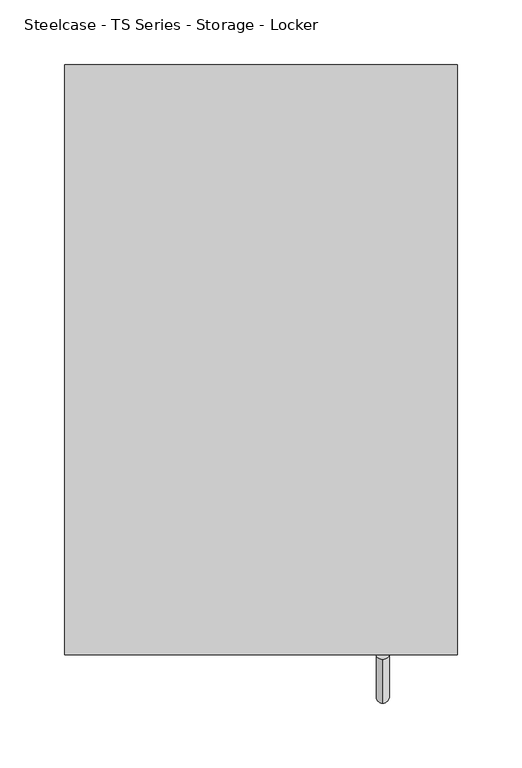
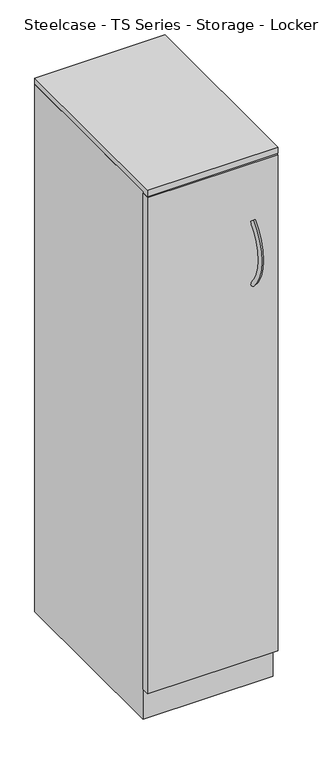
"""IFC4 building model written with IfcOpenShell, lengths in millimetres: furniture geometry, Steelcase - TS Series - Storage - Locker : 18D x 12W x 52H."""

from ifc_helpers import new_model, si_unit, point, frame, origin, place, context, project, spatial, polyline, circle_curve, ellipse_curve, trimmed, outline, extrude, source, transform, mapped, element, save
from ifc_brep_helpers import plane_surface, revolved_surface, advanced_brep


def steelcase_ts_series_storage_locker_4df35ce1(model_context):
    return source(origin(), model_context, "Body", "SolidModel", [
        extrude(outline(polyline([(957.3594429, -1262.4261191), (957.3594429, -1281.555491), (652.5594429, -1281.555491), (652.5594429, -1262.4261191), (957.3594429, -1262.4261191)])), frame((0.0, 0.0, 73.6983116), z_axis=(0.0, 0.0, 1.0), x_axis=(1.0, 0.0, 0.0)), (0.0, 0.0, 1.0), 1226.4638977),
        extrude(outline(polyline([(957.3594429, -824.355491), (957.3594429, -1262.4261191), (652.5594429, -1262.4261191), (652.5594429, -824.355491), (957.3594429, -824.355491)])), frame((0.0, 0.0, -0.4698682), z_axis=(0.0, 0.0, 1.0), x_axis=(1.0, 0.0, 0.0)), (0.0, 0.0, 1.0), 1303.8074651),
        advanced_brep(
        [(899.4155717, -1277.9900113, 1005.0621476), (899.4155717, -1285.1209708, 997.825089), (899.4155717, -1277.9900113, 1153.3956247), (899.4155717, -1285.1209708, 1160.6326834)],
        [
            (0, 1, circle_curve(frame((899.4155717, -1281.555491, 1001.4436183), z_axis=(0.0, 0.7123089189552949, -0.7018660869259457), x_axis=(0.0, -0.7018660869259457, -0.7123089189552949)), 5.08)),
            (1, 0, circle_curve(frame((899.4155717, -1281.555491, 1001.4436183), z_axis=(0.0, 0.7123089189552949, -0.7018660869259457), x_axis=(0.0, -0.7018660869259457, -0.7123089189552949)), 5.08)),
            (2, 3, circle_curve(frame((899.4155717, -1281.555491, 1157.0141541), z_axis=(0.0, 0.7123089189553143, 0.7018660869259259), x_axis=(0.0, -0.7018660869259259, 0.7123089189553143)), 5.08)),
            (3, 2, circle_curve(frame((899.4155717, -1281.555491, 1157.0141541), z_axis=(0.0, 0.7123089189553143, 0.7018660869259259), x_axis=(0.0, -0.7018660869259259, 0.7123089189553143)), 5.08)),
            (3, 1, circle_curve(frame((899.4155717, -1204.910597, 1079.2288862), z_axis=(1.0, 0.0, 0.0), x_axis=(0.0, -0.7018660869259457, -0.7123089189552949)), 114.2815919)),
            (0, 2, circle_curve(frame((899.4155717, -1204.910597, 1079.2288862), z_axis=(-1.0, 0.0, 0.0), x_axis=(0.0, -0.7018660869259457, -0.7123089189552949)), 104.1215919)),
        ],
        [
            plane_surface(frame((899.4155717, -1281.555491, 1001.4436183), z_axis=(0.0, 0.7123089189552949, -0.7018660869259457), x_axis=(1.0, 0.0, 0.0))),
            plane_surface(frame((899.4155717, -1281.555491, 1157.0141541), z_axis=(0.0, 0.7123089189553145, 0.701866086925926), x_axis=(1.0, 0.0, 0.0))),
            revolved_surface(trimmed(ellipse_curve(frame((899.4155717, -1281.555491, 1001.4436183), z_axis=(0.0, 0.7123089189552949, -0.7018660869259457), x_axis=(0.0, -0.7018660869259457, -0.7123089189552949)), 5.08, 5.08), [point((899.4155717, -1277.9900113, 1005.0621476))], [point((899.4155717, -1285.1209708, 997.825089))], True, "CARTESIAN"), (899.4155717, -1204.910597, 1079.2288862), (-1.0, 0.0, 0.0)),
            revolved_surface(trimmed(ellipse_curve(frame((899.4155717, -1281.555491, 1001.4436183), z_axis=(0.0, 0.7123089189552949, -0.7018660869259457), x_axis=(0.0, -0.7018660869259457, -0.7123089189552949)), 5.08, 5.08), [point((899.4155717, -1285.1209708, 997.825089))], [point((899.4155717, -1277.9900113, 1005.0621476))], True, "CARTESIAN"), (899.4155717, -1204.910597, 1079.2288862), (-1.0, 0.0, 0.0)),
        ],
        [
            (0, [[1, 2]]),
            (1, [[3, 4]]),
            (2, [[5, -1, 6, -4]]),
            (3, [[-6, -2, -5, -3]]),
        ],
    ),
        extrude(outline(polyline([(957.3594429, -824.355491), (957.3594429, -1281.555491), (652.5594429, -1281.555491), (652.5594429, -824.355491), (957.3594429, -824.355491)])), frame((0.0, 0.0, 1303.3375969), z_axis=(0.0, 0.0, 1.0), x_axis=(1.0, 0.0, 0.0)), (0.0, 0.0, 1.0), 15.8749031),
    ])


if __name__ == "__main__":
    model = new_model("IFC4")
    model_context = context("Model", 3, world=origin())
    ifc_project = project(units=[si_unit("LENGTHUNIT", "METRE", prefix="MILLI")], contexts=[model_context])
    site = spatial("IfcSite", under=ifc_project)
    building = spatial("IfcBuilding", under=site)
    placement = place(None, origin())
    steelcase_ts_series_storage_locker_shape = steelcase_ts_series_storage_locker_4df35ce1(model_context)
    element("IfcFurniture", 1, ObjectType="Steelcase - TS Series - Storage - Locker : 18D x 12W x 52H", at=placement, inside=building, context=model_context, shape_type="MappedRepresentation", body=[
        mapped(steelcase_ts_series_storage_locker_shape, transform((0.0, 0.0, 0.0), x_axis=(1.0, 0.0, 0.0), y_axis=(0.0, 1.0, 0.0), z_axis=(0.0, 0.0, 1.0))),
    ])
    save(model, "model.ifc")
